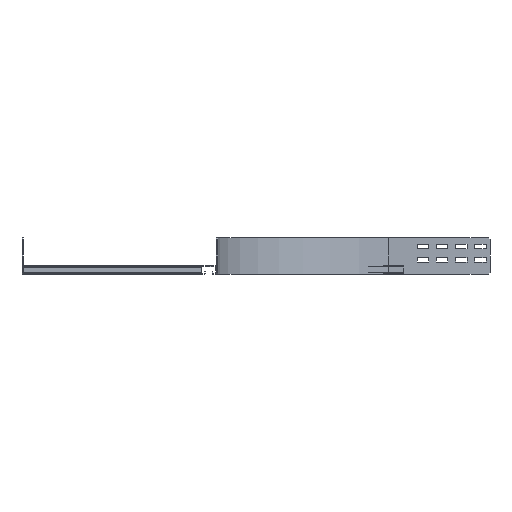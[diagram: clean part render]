
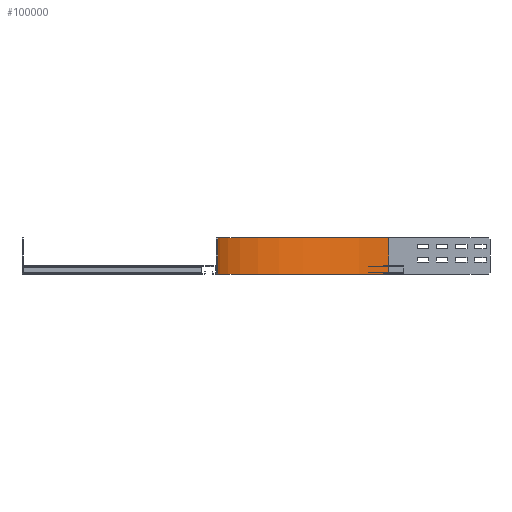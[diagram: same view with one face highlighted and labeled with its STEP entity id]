
A CAD part, left-side view. The second image highlights one B-rep face of the part: STEP entity #100000.
In plain terms, the highlighted cylindrical face has radius 447 mm (diameter 894 mm), a partial arc.
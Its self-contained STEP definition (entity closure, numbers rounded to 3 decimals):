
#78050=CARTESIAN_POINT('',(447.,-450.,-50.));
#78060=VERTEX_POINT('',#78050);
#78090=CARTESIAN_POINT('',(0.,-450.,-50.));
#78100=DIRECTION('',(0.,0.,1.));
#78110=DIRECTION('',(1.,0.,0.));
#78120=AXIS2_PLACEMENT_3D('',#78090,#78100,#78110);
#78130=CIRCLE('',#78120,447.);
#78140=CARTESIAN_POINT('',(0.,-3.,-50.));
#78150=VERTEX_POINT('',#78140);
#78160=EDGE_CURVE('',#78060,#78150,#78130,.T.);
#81560=CARTESIAN_POINT('',(0.,-3.,-145.));
#81570=VERTEX_POINT('',#81560);
#81600=CARTESIAN_POINT('',(0.,-450.,-145.));
#81610=DIRECTION('',(0.,0.,1.));
#81620=DIRECTION('',(1.,0.,0.));
#81630=AXIS2_PLACEMENT_3D('',#81600,#81610,#81620);
#81640=CIRCLE('',#81630,447.);
#81650=CARTESIAN_POINT('',(447.,-450.,-145.));
#81660=VERTEX_POINT('',#81650);
#81670=EDGE_CURVE('',#81660,#81570,#81640,.T.);
#85680=CARTESIAN_POINT('',(447.,-450.,0.));
#85690=DIRECTION('',(0.,0.,1.));
#85700=VECTOR('',#85690,1.);
#85710=LINE('',#85680,#85700);
#85720=EDGE_CURVE('',#81660,#78060,#85710,.T.);
#91380=CARTESIAN_POINT('',(0.,-3.,0.));
#91390=DIRECTION('',(0.,0.,1.));
#91400=VECTOR('',#91390,1.);
#91410=LINE('',#91380,#91400);
#91420=EDGE_CURVE('',#81570,#78150,#91410,.T.);
#99890=CARTESIAN_POINT('',(0.,-450.,0.));
#99900=DIRECTION('',(0.,0.,1.));
#99910=DIRECTION('',(1.,0.,0.));
#99920=AXIS2_PLACEMENT_3D('',#99890,#99900,#99910);
#99930=CYLINDRICAL_SURFACE('',#99920,447.);
#99940=ORIENTED_EDGE('',*,*,#78160,.T.);
#99950=ORIENTED_EDGE('',*,*,#85720,.T.);
#99960=ORIENTED_EDGE('',*,*,#81670,.F.);
#99970=ORIENTED_EDGE('',*,*,#91420,.F.);
#99980=EDGE_LOOP('',(#99970,#99960,#99950,#99940));
#99990=FACE_OUTER_BOUND('',#99980,.T.);
#100000=ADVANCED_FACE('',(#99990),#99930,.F.);
